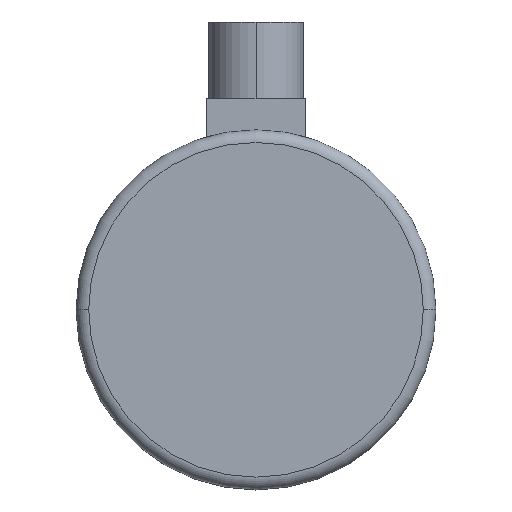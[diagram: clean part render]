
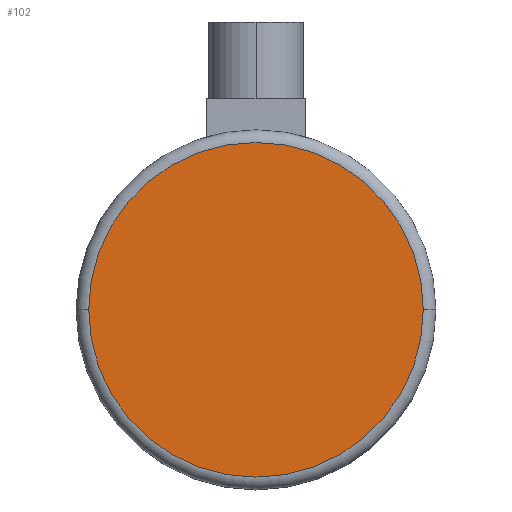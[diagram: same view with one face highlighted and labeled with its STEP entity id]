
A CAD part, top view. The second image highlights one B-rep face of the part: STEP entity #102.
In plain terms, the highlighted planar face has unit normal (0, 0, 1).
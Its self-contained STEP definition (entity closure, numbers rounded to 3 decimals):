
#12 = FACE_OUTER_BOUND ( 'NONE', #386, .T. ) ;
#28 = AXIS2_PLACEMENT_3D ( 'NONE', #44, #138, #341 ) ;
#44 = CARTESIAN_POINT ( 'NONE',  ( 0., 0., 32.8 ) ) ;
#50 = ORIENTED_EDGE ( 'NONE', *, *, #261, .T. ) ;
#66 = VERTEX_POINT ( 'NONE', #239 ) ;
#102 = ADVANCED_FACE ( 'NONE', ( #12 ), #376, .T. ) ;
#118 = CARTESIAN_POINT ( 'NONE',  ( 0., 0., 32.8 ) ) ;
#138 = DIRECTION ( 'NONE',  ( 0., 0., 1. ) ) ;
#140 = DIRECTION ( 'NONE',  ( 1., 0., 0. ) ) ;
#155 = ORIENTED_EDGE ( 'NONE', *, *, #321, .T. ) ;
#166 = CARTESIAN_POINT ( 'NONE',  ( 37.2, 0., 32.8 ) ) ;
#221 = DIRECTION ( 'NONE',  ( 0., 0., 1. ) ) ;
#233 = AXIS2_PLACEMENT_3D ( 'NONE', #271, #404, #140 ) ;
#239 = CARTESIAN_POINT ( 'NONE',  ( -37.2, 0., 32.8 ) ) ;
#253 = CIRCLE ( 'NONE', #28, 37.2 ) ;
#261 = EDGE_CURVE ( 'NONE', #66, #370, #253, .T. ) ;
#271 = CARTESIAN_POINT ( 'NONE',  ( 0., 0., 32.8 ) ) ;
#277 = AXIS2_PLACEMENT_3D ( 'NONE', #118, #221, #278 ) ;
#278 = DIRECTION ( 'NONE',  ( 1., 0., 0. ) ) ;
#321 = EDGE_CURVE ( 'NONE', #370, #66, #349, .T. ) ;
#341 = DIRECTION ( 'NONE',  ( 1., 0., 0. ) ) ;
#349 = CIRCLE ( 'NONE', #277, 37.2 ) ;
#370 = VERTEX_POINT ( 'NONE', #166 ) ;
#376 = PLANE ( 'NONE',  #233 ) ;
#386 = EDGE_LOOP ( 'NONE', ( #155, #50 ) ) ;
#404 = DIRECTION ( 'NONE',  ( 0., 0., 1. ) ) ;
